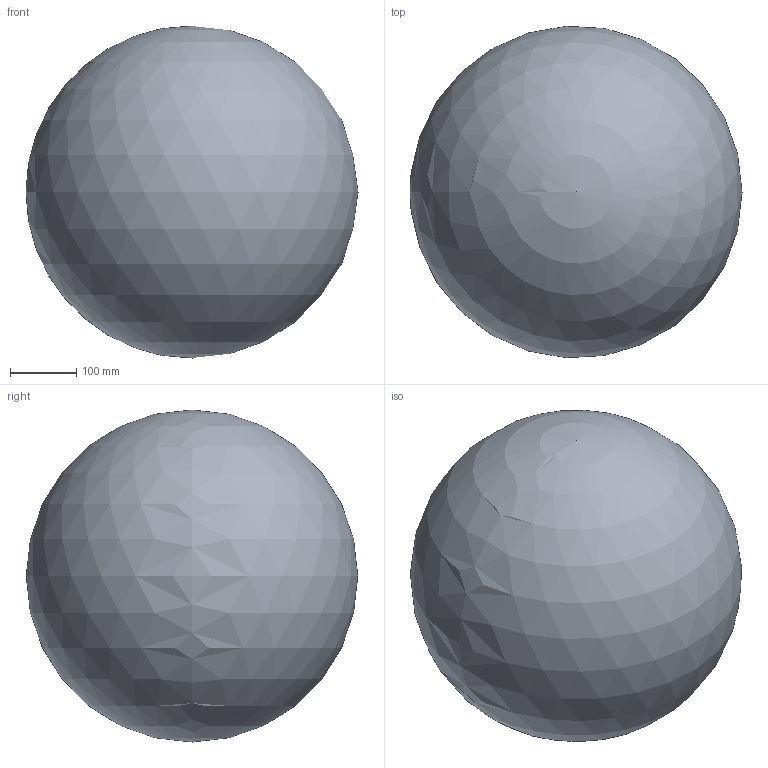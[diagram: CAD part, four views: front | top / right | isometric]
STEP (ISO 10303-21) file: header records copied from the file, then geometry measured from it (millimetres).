
FILE_DESCRIPTION(/* description */ (''),/* implementation_level */ '2;1');
FILE_NAME(/* name */ 'C:/00_Temp/CircleMinusCube.step',/* time_stamp */ '2020-02-15T18:18:16-08:00',/* author */ (''),/* organization */ (''),/* preprocessor_version */ 'ST-DEVELOPER v18',/* originating_system */ 'Autodesk Translation Framework v8.12.0.6',/* authorisation */ '');
FILE_SCHEMA (('AUTOMOTIVE_DESIGN { 1 0 10303 214 3 1 1 }'));
Length unit declared in the file: millimetre
Products named in the file (1): (Unsaved)
Bounding box: 500 x 499.15 x 500 mm (x, y, z)
Volume: 64449846.9 mm3; surface area: 845398.2 mm2
Topology: 1 solids, 2 shells, 7 faces, 15 edges, 10 vertices
Faces by surface type: plane 6, sphere 1
Entity records: 211 total; most frequent: CARTESIAN_POINT 31, DIRECTION 30, ORIENTED_EDGE 26, EDGE_CURVE 13, LINE 12, VECTOR 12, VERTEX_POINT 10, AXIS2_PLACEMENT_3D 9
